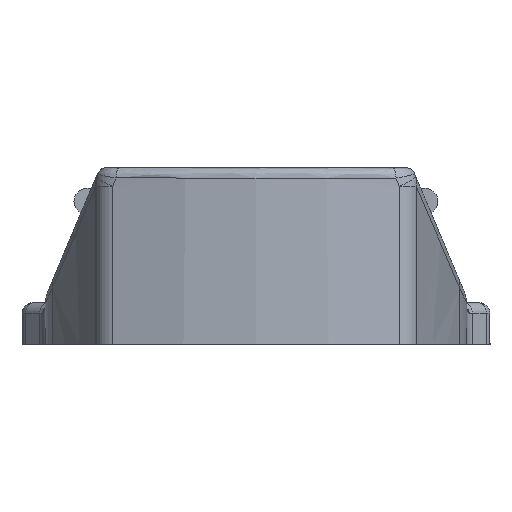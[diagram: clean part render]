
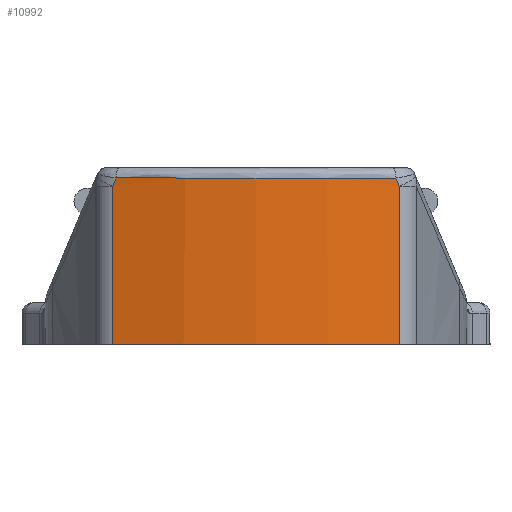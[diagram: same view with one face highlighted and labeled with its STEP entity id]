
A CAD part, front view. The second image highlights one B-rep face of the part: STEP entity #10992.
In plain terms, the highlighted cylindrical face has radius 92.5 mm (diameter 185 mm), a partial arc.
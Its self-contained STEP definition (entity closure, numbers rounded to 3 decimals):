
#79 = VERTEX_POINT ( 'NONE', #46273 ) ;
#81 = ORIENTED_EDGE ( 'NONE', *, *, #56345, .T. ) ;
#16616 = FACE_OUTER_BOUND ( 'NONE', #10204, .T. ) ;
#16617 = CYLINDRICAL_SURFACE ( 'NONE', #16618, 92.5 ) ;
#16618 = AXIS2_PLACEMENT_3D ( 'NONE', #16619, #16620, #16621 ) ;
#16619 = CARTESIAN_POINT ( 'NONE',  ( 0., 5.5, 0. ) ) ;
#16620 = DIRECTION ( 'NONE',  ( 0., 0., 1. ) ) ;
#16621 = DIRECTION ( 'NONE',  ( 1., 0., 0. ) ) ;
#50427 = EDGE_CURVE ( 'NONE', #53048, #56785, #6960, .T. ) ;
#51432 = CARTESIAN_POINT ( 'NONE',  ( -26.869, -83.012, 32. ) ) ;
#53048 = VERTEX_POINT ( 'NONE', #14337 ) ;
#4012 = CIRCLE ( 'NONE', #4013, 92.5 ) ;
#4013 = AXIS2_PLACEMENT_3D ( 'NONE', #4014, #4015, #4016 ) ;
#4014 = CARTESIAN_POINT ( 'NONE',  ( 0., 5.5, 32. ) ) ;
#4015 = DIRECTION ( 'NONE',  ( 0., 0., 1. ) ) ;
#4016 = DIRECTION ( 'NONE',  ( 1., 0., 0. ) ) ;
#54273 = ORIENTED_EDGE ( 'NONE', *, *, #42965, .F. ) ;
#21586 = LINE ( 'NONE', #21587, #21588 ) ;
#21587 = CARTESIAN_POINT ( 'NONE',  ( 27.579, -82.793, 15.201 ) ) ;
#21588 = VECTOR ( 'NONE', #21589, 1000. ) ;
#21589 = DIRECTION ( 'NONE',  ( 0., 0., 1. ) ) ;
#54635 = ORIENTED_EDGE ( 'NONE', *, *, #50427, .F. ) ;
#22872 = CARTESIAN_POINT ( 'NONE',  ( 27.579, -82.793, 30.402 ) ) ;
#55855 = ORIENTED_EDGE ( 'NONE', *, *, #6734, .F. ) ;
#6734 = EDGE_CURVE ( 'NONE', #26609, #53048, #4012, .T. ) ;
#6876 = CARTESIAN_POINT ( 'NONE',  ( -27.579, -82.793, 0. ) ) ;
#6960 = B_SPLINE_CURVE_WITH_KNOTS ( 'NONE', 3,
 ( #6961, #6962, #6963, #6964 ),
 .UNSPECIFIED., .F., .F.,
 ( 4, 4 ),
 ( 0., 1. ),
 .UNSPECIFIED. ) ;
#6961 = CARTESIAN_POINT ( 'NONE',  ( 26.869, -83.012, 32. ) ) ;
#6962 = CARTESIAN_POINT ( 'NONE',  ( 27.106, -82.94, 31.467 ) ) ;
#6963 = CARTESIAN_POINT ( 'NONE',  ( 27.342, -82.867, 30.935 ) ) ;
#6964 = CARTESIAN_POINT ( 'NONE',  ( 27.579, -82.793, 30.402 ) ) ;
#56345 = EDGE_CURVE ( 'NONE', #24519, #56785, #21586, .T. ) ;
#56785 = VERTEX_POINT ( 'NONE', #22872 ) ;
#24519 = VERTEX_POINT ( 'NONE', #45072 ) ;
#8484 = ORIENTED_EDGE ( 'NONE', *, *, #15437, .F. ) ;
#25239 = EDGE_CURVE ( 'NONE', #30497, #24519, #46059, .T. ) ;
#25893 = LINE ( 'NONE', #25894, #25940 ) ;
#25894 = CARTESIAN_POINT ( 'NONE',  ( -27.579, -82.793, 16. ) ) ;
#25940 = VECTOR ( 'NONE', #25941, 1000. ) ;
#25941 = DIRECTION ( 'NONE',  ( 0., 0., 1. ) ) ;
#26482 = ORIENTED_EDGE ( 'NONE', *, *, #25239, .T. ) ;
#10204 = EDGE_LOOP ( 'NONE', ( #8484, #26482, #81, #54635, #55855, #54273 ) ) ;
#42965 = EDGE_CURVE ( 'NONE', #79, #26609, #43251, .T. ) ;
#26609 = VERTEX_POINT ( 'NONE', #51432 ) ;
#43251 = B_SPLINE_CURVE_WITH_KNOTS ( 'NONE', 3,
 ( #43252, #43253, #43254, #43255 ),
 .UNSPECIFIED., .F., .F.,
 ( 4, 4 ),
 ( 0., 1. ),
 .UNSPECIFIED. ) ;
#43252 = CARTESIAN_POINT ( 'NONE',  ( -27.579, -82.793, 30.402 ) ) ;
#43253 = CARTESIAN_POINT ( 'NONE',  ( -27.342, -82.867, 30.935 ) ) ;
#43254 = CARTESIAN_POINT ( 'NONE',  ( -27.106, -82.94, 31.467 ) ) ;
#43255 = CARTESIAN_POINT ( 'NONE',  ( -26.869, -83.012, 32. ) ) ;
#10992 = ADVANCED_FACE ( 'NONE', ( #16616 ), #16617, .T. ) ;
#45072 = CARTESIAN_POINT ( 'NONE',  ( 27.579, -82.793, 0. ) ) ;
#46059 = CIRCLE ( 'NONE', #46060, 92.5 ) ;
#46060 = AXIS2_PLACEMENT_3D ( 'NONE', #46061, #46062, #46063 ) ;
#46061 = CARTESIAN_POINT ( 'NONE',  ( 0., 5.5, 0. ) ) ;
#46062 = DIRECTION ( 'NONE',  ( 0., 0., 1. ) ) ;
#46063 = DIRECTION ( 'NONE',  ( 1., 0., 0. ) ) ;
#46273 = CARTESIAN_POINT ( 'NONE',  ( -27.579, -82.793, 30.402 ) ) ;
#30497 = VERTEX_POINT ( 'NONE', #6876 ) ;
#14337 = CARTESIAN_POINT ( 'NONE',  ( 26.869, -83.012, 32. ) ) ;
#15437 = EDGE_CURVE ( 'NONE', #30497, #79, #25893, .T. ) ;
